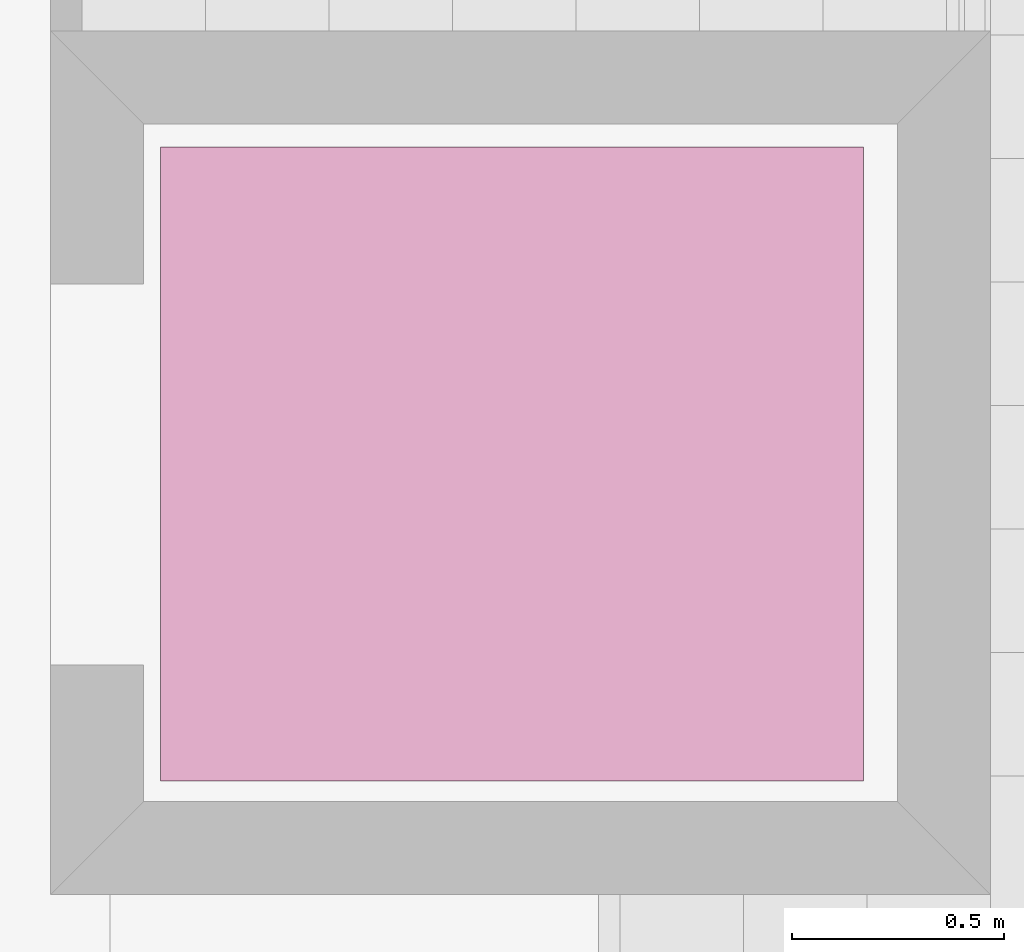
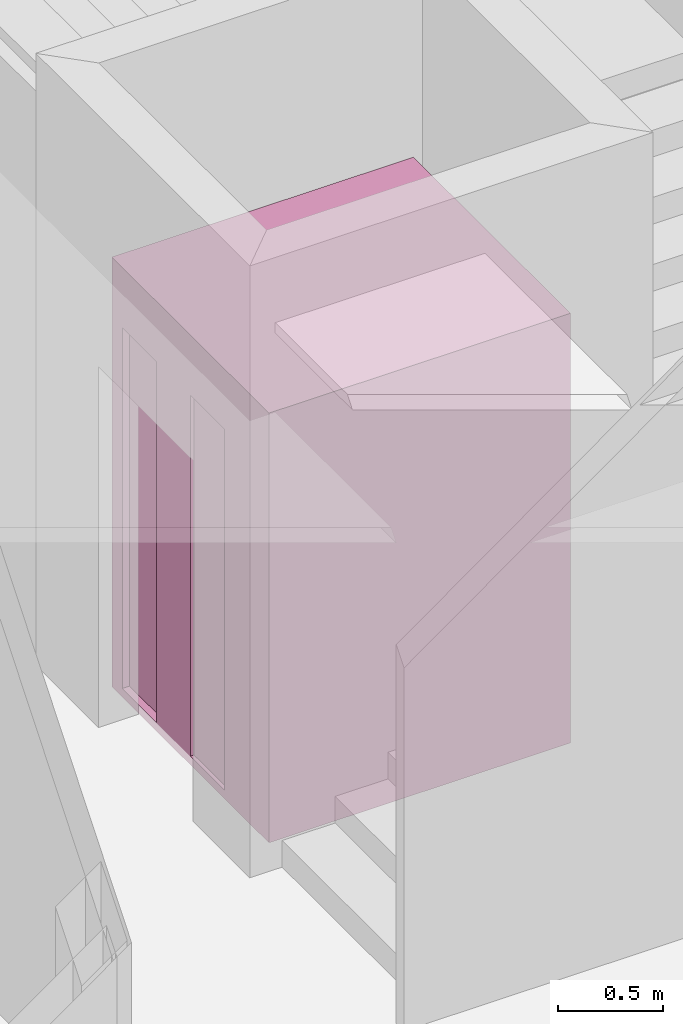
# One storey, part 89 of 91: 1 transport element.
"""IFC2X3 building model written with IfcOpenShell, lengths in metres."""

from ifc_helpers import new_model, entity, si_unit, converted_unit, derived_unit, money_unit, direction, frame, origin_with_axes, place, context, subcontext, project, spatial, faceted_brep, type_object, element, save


model = new_model("IFC2X3")

# Units and contexts
model_context = context("Model", 3, precision=1e-05, world=origin_with_axes(), true_north=direction((0.0, 1.0)))
body_context = subcontext(model_context, "Body", "Model", "MODEL_VIEW")
ifc_project = project(units=[si_unit("LENGTHUNIT", "METRE"), si_unit("AREAUNIT", "SQUARE_METRE"), si_unit("VOLUMEUNIT", "CUBIC_METRE"), converted_unit("PLANEANGLEUNIT", "DEGREE", entity("IfcPlaneAngleMeasure", 0.0174532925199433), si_unit("PLANEANGLEUNIT", "RADIAN"), dimensions=[0, 0, 0, 0, 0, 0, 0]), money_unit("EUR"), converted_unit("TIMEUNIT", "Year", entity("IfcTimeMeasure", 31557600.0), si_unit("TIMEUNIT", "SECOND"), dimensions=[0, 0, 1, 0, 0, 0, 0]), si_unit("MASSUNIT", "GRAM", prefix="KILO"), si_unit("THERMODYNAMICTEMPERATUREUNIT", "DEGREE_CELSIUS"), si_unit("LUMINOUSINTENSITYUNIT", "LUMEN"), si_unit("ENERGYUNIT", "JOULE", prefix="MEGA"), derived_unit("THERMALCONDUCTANCEUNIT", [(si_unit("POWERUNIT", "WATT"), 1), (si_unit("LENGTHUNIT", "METRE"), -1), (si_unit("THERMODYNAMICTEMPERATUREUNIT", "KELVIN"), -1)]), derived_unit("SPECIFICHEATCAPACITYUNIT", [(si_unit("ENERGYUNIT", "JOULE"), 1), (si_unit("MASSUNIT", "GRAM", prefix="KILO"), -1), (si_unit("THERMODYNAMICTEMPERATUREUNIT", "KELVIN"), -1)]), derived_unit("MASSDENSITYUNIT", [(si_unit("MASSUNIT", "GRAM", prefix="KILO"), 1), (si_unit("VOLUMEUNIT", "CUBIC_METRE"), -1)])], contexts=[model_context])

# Site, building, storey
site_placement = place(None, origin_with_axes())
site = spatial("IfcSite", under=ifc_project, at=site_placement, Name="Site", CompositionType="ELEMENT")
building_placement = place(site_placement, origin_with_axes())
building = spatial("IfcBuilding", under=site, at=building_placement, Name="Bâtiment", CompositionType="ELEMENT")
storey_placement = place(building_placement, origin_with_axes())
storey = spatial("IfcBuildingStorey", under=building, at=storey_placement, Name="RDC", CompositionType="ELEMENT", Elevation=0.0)

# Transport element
transport_element_type = type_object("IfcTransportElementType", Name="Ascenseur 27", PredefinedType="NOTDEFINED")
transport_element_placement = place(storey_placement, frame((34.26300800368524, -18.21056214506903, 0.0), z_axis=(0.0, 0.0, 1.0), x_axis=(0.0, -1.0, 0.0)))
element("IfcTransportElement", 1, at=transport_element_placement, inside=storey, type_object=transport_element_type, Name="WC PMR", context=body_context, shape_type="Brep", body=[
    faceted_brep([(0.8999999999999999, 0.21, 0.0), (0.5754999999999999, 0.21, 0.0), (0.5754999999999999, 0.2100000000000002, 2.1), (0.8999999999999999, 0.2100000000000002, 2.1), (0.8999999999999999, 0.19, 0.0), (0.5754999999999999, 0.19, 0.0), (0.5754999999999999, 0.1900000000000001, 2.1), (0.8999999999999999, 0.1900000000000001, 2.1)], [[[0, 1, 2, 3]], [[1, 0, 4, 5]], [[2, 1, 5, 6]], [[3, 2, 6, 7]], [[0, 3, 7, 4]], [[5, 4, 7, 6]]]),
    faceted_brep([(1.2245, 0.23, 0.0), (0.9, 0.23, 0.0), (0.9, 0.2300000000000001, 2.1), (1.2245, 0.2300000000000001, 2.1), (1.2245, 0.21, 0.0), (0.9, 0.21, 0.0), (0.9, 0.2100000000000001, 2.1), (1.2245, 0.2100000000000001, 2.1)], [[[0, 1, 2, 3]], [[1, 0, 4, 5]], [[2, 1, 5, 6]], [[3, 2, 6, 7]], [[0, 3, 7, 4]], [[5, 4, 7, 6]]]),
    faceted_brep([(1.2245, 0.27, 0.0), (1.569, 0.27, 0.0), (1.569, 1.77, 0.0), (0.2309999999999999, 1.77, 0.0), (0.2309999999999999, 0.27, 0.0), (0.5754999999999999, 0.27, 0.0), (0.5754999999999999, 0.23, 0.0), (0.2509999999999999, 0.23, 0.0), (0.2509999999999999, 0.1899999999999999, 0.0), (0.1509999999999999, 0.1899999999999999, 0.0), (0.1509999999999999, 1.85, 0.0), (1.649, 1.85, 0.0), (1.649, 0.1899999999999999, 0.0), (1.2245, 0.1899999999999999, 0.0), (0.2309999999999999, 0.27, 2.4), (1.569, 0.27, 2.4), (1.2245, 0.27, 2.1), (0.5754999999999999, 0.27, 2.1), (1.569, 1.77, 2.4), (0.2309999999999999, 1.77, 2.4), (0.5754999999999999, 0.2300000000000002, 2.1), (0.2509999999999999, 0.2300000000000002, 2.1), (0.2509999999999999, 0.1899999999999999, 2.1), (1.2245, 0.1899999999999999, 2.1), (1.649, 0.1899999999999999, 2.4), (0.1509999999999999, 0.1899999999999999, 2.4), (0.1509999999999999, 1.85, 2.4), (1.649, 1.85, 2.4)], [[[0, 1, 2, 3, 4, 5, 6, 7, 8, 9, 10, 11, 12, 13]], [[14, 15, 1, 0, 16, 17, 5, 4]], [[15, 18, 2, 1]], [[18, 19, 3, 2]], [[19, 14, 4, 3]], [[5, 17, 20, 6]], [[20, 21, 7, 6]], [[21, 22, 8, 7]], [[8, 22, 23, 13, 12, 24, 25, 9]], [[26, 10, 9, 25]], [[27, 11, 10, 26]], [[24, 12, 11, 27]], [[16, 0, 13, 23]], [[26, 25, 24, 27], [14, 19, 18, 15]], [[17, 16, 23, 22, 21, 20]]]),
    faceted_brep([(0.1509999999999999, 0.19, -0.05), (1.649, 0.19, -0.05), (1.649, 0.19, 0.0), (0.1509999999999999, 0.19, 0.0), (0.1509999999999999, 1.85, -0.05), (1.649, 1.85, -0.05), (1.649, 1.85, 0.0), (0.1509999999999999, 1.85, 0.0)], [[[0, 1, 2, 3]], [[0, 4, 5, 1]], [[1, 5, 6, 2]], [[3, 2, 6, 7]], [[4, 0, 3, 7]], [[5, 4, 7, 6]]]),
    faceted_brep([(0.1509999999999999, 0.19, 2.4), (1.649, 0.19, 2.4), (1.649, 0.19, 2.45), (0.1509999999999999, 0.19, 2.45), (0.1509999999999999, 1.85, 2.4), (1.649, 1.85, 2.4), (1.649, 1.85, 2.45), (0.1509999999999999, 1.85, 2.45)], [[[0, 1, 2, 3]], [[0, 4, 5, 1]], [[1, 5, 6, 2]], [[3, 2, 6, 7]], [[4, 0, 3, 7]], [[5, 4, 7, 6]]]),
    faceted_brep([(1.569, 0.37, 1.0), (1.569, 0.47, 1.0), (1.569, 0.47, 1.075), (1.569, 0.37, 1.075), (1.559, 0.37, 1.0), (1.559, 0.47, 1.0), (1.559, 0.47, 1.075), (1.559, 0.37, 1.075)], [[[0, 1, 2, 3]], [[1, 0, 4, 5]], [[2, 1, 5, 6]], [[3, 2, 6, 7]], [[0, 3, 7, 4]], [[5, 4, 7, 6]]]),
    faceted_brep([(1.559, 0.4504289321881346, 1.005428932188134), (1.559, 0.4504289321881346, 1.019571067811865), (1.554, 0.4518431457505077, 1.018156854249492), (1.554, 0.4518431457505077, 1.006843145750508), (1.559, 0.4645710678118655, 1.005428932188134), (1.559, 0.4645710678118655, 1.019571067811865), (1.554, 0.4631568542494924, 1.018156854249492), (1.554, 0.4631568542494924, 1.006843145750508)], [[[0, 1, 2, 3]], [[0, 4, 5, 1]], [[1, 5, 6, 2]], [[3, 2, 6, 7]], [[4, 0, 3, 7]], [[5, 4, 7, 6]]]),
    faceted_brep([(1.559, 0.4254289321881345, 1.005428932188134), (1.559, 0.4254289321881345, 1.019571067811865), (1.554, 0.4268431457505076, 1.018156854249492), (1.554, 0.4268431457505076, 1.006843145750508), (1.559, 0.4395710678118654, 1.005428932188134), (1.559, 0.4395710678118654, 1.019571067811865), (1.554, 0.4381568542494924, 1.018156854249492), (1.554, 0.4381568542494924, 1.006843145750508)], [[[0, 1, 2, 3]], [[0, 4, 5, 1]], [[1, 5, 6, 2]], [[3, 2, 6, 7]], [[4, 0, 3, 7]], [[5, 4, 7, 6]]]),
    faceted_brep([(1.559, 0.4004289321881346, 1.005428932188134), (1.559, 0.4004289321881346, 1.019571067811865), (1.554, 0.4018431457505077, 1.018156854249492), (1.554, 0.4018431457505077, 1.006843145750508), (1.559, 0.4145710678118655, 1.005428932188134), (1.559, 0.4145710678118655, 1.019571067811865), (1.554, 0.4131568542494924, 1.018156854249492), (1.554, 0.4131568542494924, 1.006843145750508)], [[[0, 1, 2, 3]], [[0, 4, 5, 1]], [[1, 5, 6, 2]], [[3, 2, 6, 7]], [[4, 0, 3, 7]], [[5, 4, 7, 6]]]),
    faceted_brep([(1.559, 0.3754289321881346, 1.005428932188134), (1.559, 0.3754289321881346, 1.019571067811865), (1.554, 0.3768431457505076, 1.018156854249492), (1.554, 0.3768431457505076, 1.006843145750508), (1.559, 0.3895710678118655, 1.005428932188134), (1.559, 0.3895710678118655, 1.019571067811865), (1.554, 0.3881568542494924, 1.018156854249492), (1.554, 0.3881568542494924, 1.006843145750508)], [[[0, 1, 2, 3]], [[0, 4, 5, 1]], [[1, 5, 6, 2]], [[3, 2, 6, 7]], [[4, 0, 3, 7]], [[5, 4, 7, 6]]]),
    faceted_brep([(1.559, 0.4504289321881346, 1.055428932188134), (1.559, 0.4504289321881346, 1.069571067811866), (1.554, 0.4518431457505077, 1.068156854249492), (1.554, 0.4518431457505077, 1.056843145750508), (1.559, 0.4645710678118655, 1.055428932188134), (1.559, 0.4645710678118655, 1.069571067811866), (1.554, 0.4631568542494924, 1.068156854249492), (1.554, 0.4631568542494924, 1.056843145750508)], [[[0, 1, 2, 3]], [[0, 4, 5, 1]], [[1, 5, 6, 2]], [[3, 2, 6, 7]], [[4, 0, 3, 7]], [[5, 4, 7, 6]]]),
])

save(model, "model.ifc")
